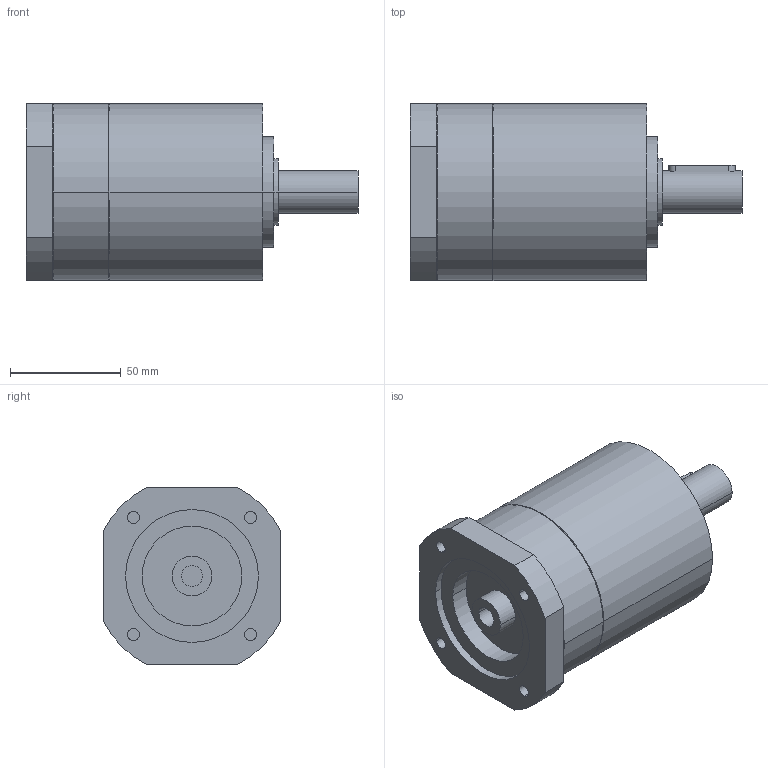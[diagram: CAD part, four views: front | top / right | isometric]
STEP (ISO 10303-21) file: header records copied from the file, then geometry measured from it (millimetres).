
FILE_DESCRIPTION(('CoCreate Modeling STEP Export'),'2;1');
FILE_NAME('GPR100_ig-3-4-5-6_19_B14_9.52_P03.stp','2014-08-26T10:09:34',(''),(''),'CoCreate Modeling STEP processor for AP214 (Solid Model)','CoCreate Modeling 16.00C 25-Feb-2009 (C) Parametric Technology GmbH','');
FILE_SCHEMA(('AUTOMOTIVE_DESIGN { 1 0 10303 214 1 1 1 1 }'));
Length unit declared in the file: millimetre
Products named in the file (2): GPR100_ig-3-4-5-6_19_B14_9.52_P03
Assembly tree (1 placements, depth 2):
  GPR100_ig-3-4-5-6_19_B14_9.52_P03
    GPR100_ig-3-4-5-6_19_B14_9.52_P03
Bounding box: 150 x 80 x 80 mm (x, y, z)
Volume: 541765.5 mm3; surface area: 48431.4 mm2
Topology: 1 solids, 1 shells, 86 faces, 231 edges, 159 vertices
Faces by surface type: cylinder 50, plane 30, cone 6
Entity records: 2312 total; most frequent: ORIENTED_EDGE 458, CARTESIAN_POINT 417, DIRECTION 314, EDGE_CURVE 229, VERTEX_POINT 159, AXIS2_PLACEMENT_3D 120, EDGE_LOOP 108, FACE_OUTER_BOUND 86
